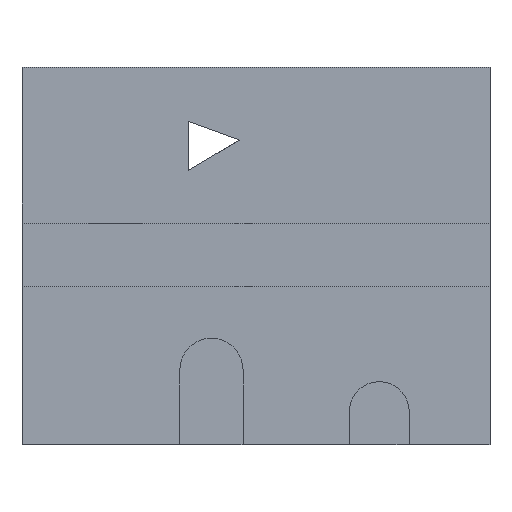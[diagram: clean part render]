
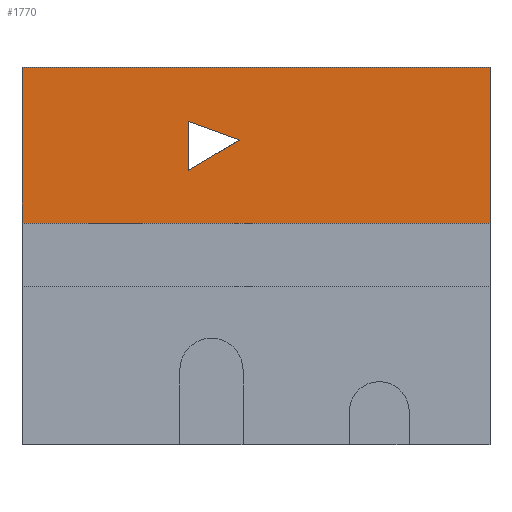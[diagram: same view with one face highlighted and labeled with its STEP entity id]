
A CAD part, front view. The second image highlights one B-rep face of the part: STEP entity #1770.
In plain terms, the highlighted planar face has unit normal (0, -1, 0).
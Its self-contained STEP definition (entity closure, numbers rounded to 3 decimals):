
#32 = PLANE('',#33);
#33 = AXIS2_PLACEMENT_3D('',#34,#35,#36);
#34 = CARTESIAN_POINT('',(0.,0.,0.));
#35 = DIRECTION('',(1.,0.,-0.));
#36 = DIRECTION('',(0.,0.,1.));
#113 = VERTEX_POINT('',#114);
#114 = CARTESIAN_POINT('',(0.,0.,11.959));
#128 = PLANE('',#129);
#129 = AXIS2_PLACEMENT_3D('',#130,#131,#132);
#130 = CARTESIAN_POINT('',(0.,0.,11.959));
#131 = DIRECTION('',(0.,0.,1.));
#132 = DIRECTION('',(1.,0.,-0.));
#140 = EDGE_CURVE('',#141,#113,#143,.T.);
#141 = VERTEX_POINT('',#142);
#142 = CARTESIAN_POINT('',(0.,0.,7.021));
#143 = SURFACE_CURVE('',#144,(#148,#155),.PCURVE_S1.);
#144 = LINE('',#145,#146);
#145 = CARTESIAN_POINT('',(0.,0.,0.));
#146 = VECTOR('',#147,1.);
#147 = DIRECTION('',(0.,0.,1.));
#148 = PCURVE('',#32,#149);
#149 = DEFINITIONAL_REPRESENTATION('',(#150),#154);
#150 = LINE('',#151,#152);
#151 = CARTESIAN_POINT('',(0.,0.));
#152 = VECTOR('',#153,1.);
#153 = DIRECTION('',(1.,0.));
#154 = ( GEOMETRIC_REPRESENTATION_CONTEXT(2) 
PARAMETRIC_REPRESENTATION_CONTEXT() REPRESENTATION_CONTEXT('2D SPACE',''
  ) );
#155 = PCURVE('',#156,#161);
#156 = PLANE('',#157);
#157 = AXIS2_PLACEMENT_3D('',#158,#159,#160);
#158 = CARTESIAN_POINT('',(0.,0.,0.));
#159 = DIRECTION('',(-0.,1.,0.));
#160 = DIRECTION('',(0.,0.,1.));
#161 = DEFINITIONAL_REPRESENTATION('',(#162),#166);
#162 = LINE('',#163,#164);
#163 = CARTESIAN_POINT('',(0.,0.));
#164 = VECTOR('',#165,1.);
#165 = DIRECTION('',(1.,0.));
#166 = ( GEOMETRIC_REPRESENTATION_CONTEXT(2) 
PARAMETRIC_REPRESENTATION_CONTEXT() REPRESENTATION_CONTEXT('2D SPACE',''
  ) );
#184 = PLANE('',#185);
#185 = AXIS2_PLACEMENT_3D('',#186,#187,#188);
#186 = CARTESIAN_POINT('',(14.823,8.082,7.021
    ));
#187 = DIRECTION('',(0.,0.,1.));
#188 = DIRECTION('',(0.,-1.,0.));
#357 = PLANE('',#358);
#358 = AXIS2_PLACEMENT_3D('',#359,#360,#361);
#359 = CARTESIAN_POINT('',(14.823,0.,0.));
#360 = DIRECTION('',(1.,0.,-0.));
#361 = DIRECTION('',(0.,0.,1.));
#1234 = PLANE('',#1235);
#1235 = AXIS2_PLACEMENT_3D('',#1236,#1237,#1238);
#1236 = CARTESIAN_POINT('',(5.268,11.937,
    10.242));
#1237 = DIRECTION('',(0.342,0.,0.94));
#1238 = DIRECTION('',(0.94,0.,-0.342));
#1260 = PLANE('',#1261);
#1261 = AXIS2_PLACEMENT_3D('',#1262,#1263,#1264);
#1262 = CARTESIAN_POINT('',(5.275,11.937,
    8.691));
#1263 = DIRECTION('',(-1.,0.,-0.004));
#1264 = DIRECTION('',(-0.004,0.,1.));
#1325 = EDGE_CURVE('',#113,#1326,#1328,.T.);
#1326 = VERTEX_POINT('',#1327);
#1327 = CARTESIAN_POINT('',(14.823,0.,11.959));
#1328 = SURFACE_CURVE('',#1329,(#1333,#1340),.PCURVE_S1.);
#1329 = LINE('',#1330,#1331);
#1330 = CARTESIAN_POINT('',(0.,0.,11.959));
#1331 = VECTOR('',#1332,1.);
#1332 = DIRECTION('',(1.,0.,-0.));
#1333 = PCURVE('',#128,#1334);
#1334 = DEFINITIONAL_REPRESENTATION('',(#1335),#1339);
#1335 = LINE('',#1336,#1337);
#1336 = CARTESIAN_POINT('',(0.,0.));
#1337 = VECTOR('',#1338,1.);
#1338 = DIRECTION('',(1.,0.));
#1339 = ( GEOMETRIC_REPRESENTATION_CONTEXT(2) 
PARAMETRIC_REPRESENTATION_CONTEXT() REPRESENTATION_CONTEXT('2D SPACE',''
  ) );
#1340 = PCURVE('',#156,#1341);
#1341 = DEFINITIONAL_REPRESENTATION('',(#1342),#1346);
#1342 = LINE('',#1343,#1344);
#1343 = CARTESIAN_POINT('',(11.959,0.));
#1344 = VECTOR('',#1345,1.);
#1345 = DIRECTION('',(0.,1.));
#1346 = ( GEOMETRIC_REPRESENTATION_CONTEXT(2) 
PARAMETRIC_REPRESENTATION_CONTEXT() REPRESENTATION_CONTEXT('2D SPACE',''
  ) );
#1657 = EDGE_CURVE('',#1658,#141,#1660,.T.);
#1658 = VERTEX_POINT('',#1659);
#1659 = CARTESIAN_POINT('',(14.823,0.,7.021));
#1660 = SURFACE_CURVE('',#1661,(#1665,#1672),.PCURVE_S1.);
#1661 = LINE('',#1662,#1663);
#1662 = CARTESIAN_POINT('',(14.823,0.,7.021));
#1663 = VECTOR('',#1664,1.);
#1664 = DIRECTION('',(-1.,-0.,0.));
#1665 = PCURVE('',#184,#1666);
#1666 = DEFINITIONAL_REPRESENTATION('',(#1667),#1671);
#1667 = LINE('',#1668,#1669);
#1668 = CARTESIAN_POINT('',(8.082,0.));
#1669 = VECTOR('',#1670,1.);
#1670 = DIRECTION('',(0.,-1.));
#1671 = ( GEOMETRIC_REPRESENTATION_CONTEXT(2) 
PARAMETRIC_REPRESENTATION_CONTEXT() REPRESENTATION_CONTEXT('2D SPACE',''
  ) );
#1672 = PCURVE('',#156,#1673);
#1673 = DEFINITIONAL_REPRESENTATION('',(#1674),#1678);
#1674 = LINE('',#1675,#1676);
#1675 = CARTESIAN_POINT('',(7.021,14.823));
#1676 = VECTOR('',#1677,1.);
#1677 = DIRECTION('',(0.,-1.));
#1678 = ( GEOMETRIC_REPRESENTATION_CONTEXT(2) 
PARAMETRIC_REPRESENTATION_CONTEXT() REPRESENTATION_CONTEXT('2D SPACE',''
  ) );
#1770 = ADVANCED_FACE('f008',(#1771,#1797),#156,.F.);
#1771 = FACE_BOUND('',#1772,.F.);
#1772 = EDGE_LOOP('',(#1773,#1794,#1795,#1796));
#1773 = ORIENTED_EDGE('',*,*,#1774,.F.);
#1774 = EDGE_CURVE('',#1658,#1326,#1775,.T.);
#1775 = SURFACE_CURVE('',#1776,(#1780,#1787),.PCURVE_S1.);
#1776 = LINE('',#1777,#1778);
#1777 = CARTESIAN_POINT('',(14.823,0.,0.));
#1778 = VECTOR('',#1779,1.);
#1779 = DIRECTION('',(0.,0.,1.));
#1780 = PCURVE('',#156,#1781);
#1781 = DEFINITIONAL_REPRESENTATION('',(#1782),#1786);
#1782 = LINE('',#1783,#1784);
#1783 = CARTESIAN_POINT('',(0.,14.823));
#1784 = VECTOR('',#1785,1.);
#1785 = DIRECTION('',(1.,0.));
#1786 = ( GEOMETRIC_REPRESENTATION_CONTEXT(2) 
PARAMETRIC_REPRESENTATION_CONTEXT() REPRESENTATION_CONTEXT('2D SPACE',''
  ) );
#1787 = PCURVE('',#357,#1788);
#1788 = DEFINITIONAL_REPRESENTATION('',(#1789),#1793);
#1789 = LINE('',#1790,#1791);
#1790 = CARTESIAN_POINT('',(0.,0.));
#1791 = VECTOR('',#1792,1.);
#1792 = DIRECTION('',(1.,0.));
#1793 = ( GEOMETRIC_REPRESENTATION_CONTEXT(2) 
PARAMETRIC_REPRESENTATION_CONTEXT() REPRESENTATION_CONTEXT('2D SPACE',''
  ) );
#1794 = ORIENTED_EDGE('',*,*,#1657,.T.);
#1795 = ORIENTED_EDGE('',*,*,#140,.T.);
#1796 = ORIENTED_EDGE('',*,*,#1325,.T.);
#1797 = FACE_BOUND('',#1798,.F.);
#1798 = EDGE_LOOP('',(#1799,#1827,#1848));
#1799 = ORIENTED_EDGE('',*,*,#1800,.F.);
#1800 = EDGE_CURVE('',#1801,#1803,#1805,.T.);
#1801 = VERTEX_POINT('',#1802);
#1802 = CARTESIAN_POINT('',(6.885,0.,9.653));
#1803 = VERTEX_POINT('',#1804);
#1804 = CARTESIAN_POINT('',(5.275,0.,8.691));
#1805 = SURFACE_CURVE('',#1806,(#1810,#1816),.PCURVE_S1.);
#1806 = LINE('',#1807,#1808);
#1807 = CARTESIAN_POINT('',(2.223,0.,6.868));
#1808 = VECTOR('',#1809,1.);
#1809 = DIRECTION('',(-0.858,0.,-0.513));
#1810 = PCURVE('',#156,#1811);
#1811 = DEFINITIONAL_REPRESENTATION('',(#1812),#1815);
#1812 = B_SPLINE_CURVE_WITH_KNOTS('',1,(#1813,#1814),.UNSPECIFIED.,.F.,
  .F.,(2,2),(-5.431,-3.555),.PIECEWISE_BEZIER_KNOTS.);
#1813 = CARTESIAN_POINT('',(9.653,6.885));
#1814 = CARTESIAN_POINT('',(8.691,5.275));
#1815 = ( GEOMETRIC_REPRESENTATION_CONTEXT(2) 
PARAMETRIC_REPRESENTATION_CONTEXT() REPRESENTATION_CONTEXT('2D SPACE',''
  ) );
#1816 = PCURVE('',#1817,#1822);
#1817 = PLANE('',#1818);
#1818 = AXIS2_PLACEMENT_3D('',#1819,#1820,#1821);
#1819 = CARTESIAN_POINT('',(6.885,11.937,
    9.653));
#1820 = DIRECTION('',(0.513,0.,-0.858));
#1821 = DIRECTION('',(-0.858,0.,-0.513));
#1822 = DEFINITIONAL_REPRESENTATION('',(#1823),#1826);
#1823 = B_SPLINE_CURVE_WITH_KNOTS('',1,(#1824,#1825),.UNSPECIFIED.,.F.,
  .F.,(2,2),(-5.431,-3.555),.PIECEWISE_BEZIER_KNOTS.);
#1824 = CARTESIAN_POINT('',(0.,-11.937));
#1825 = CARTESIAN_POINT('',(1.876,-11.937));
#1826 = ( GEOMETRIC_REPRESENTATION_CONTEXT(2) 
PARAMETRIC_REPRESENTATION_CONTEXT() REPRESENTATION_CONTEXT('2D SPACE',''
  ) );
#1827 = ORIENTED_EDGE('',*,*,#1828,.F.);
#1828 = EDGE_CURVE('',#1829,#1801,#1831,.T.);
#1829 = VERTEX_POINT('',#1830);
#1830 = CARTESIAN_POINT('',(5.268,0.,10.242));
#1831 = SURFACE_CURVE('',#1832,(#1836,#1842),.PCURVE_S1.);
#1832 = LINE('',#1833,#1834);
#1833 = CARTESIAN_POINT('',(4.588,0.,10.489));
#1834 = VECTOR('',#1835,1.);
#1835 = DIRECTION('',(0.94,0.,-0.342));
#1836 = PCURVE('',#156,#1837);
#1837 = DEFINITIONAL_REPRESENTATION('',(#1838),#1841);
#1838 = B_SPLINE_CURVE_WITH_KNOTS('',1,(#1839,#1840),.UNSPECIFIED.,.F.,
  .F.,(2,2),(0.723,2.445),.PIECEWISE_BEZIER_KNOTS.);
#1839 = CARTESIAN_POINT('',(10.242,5.268));
#1840 = CARTESIAN_POINT('',(9.653,6.885));
#1841 = ( GEOMETRIC_REPRESENTATION_CONTEXT(2) 
PARAMETRIC_REPRESENTATION_CONTEXT() REPRESENTATION_CONTEXT('2D SPACE',''
  ) );
#1842 = PCURVE('',#1234,#1843);
#1843 = DEFINITIONAL_REPRESENTATION('',(#1844),#1847);
#1844 = B_SPLINE_CURVE_WITH_KNOTS('',1,(#1845,#1846),.UNSPECIFIED.,.F.,
  .F.,(2,2),(0.723,2.445),.PIECEWISE_BEZIER_KNOTS.);
#1845 = CARTESIAN_POINT('',(0.,-11.937));
#1846 = CARTESIAN_POINT('',(1.721,-11.937));
#1847 = ( GEOMETRIC_REPRESENTATION_CONTEXT(2) 
PARAMETRIC_REPRESENTATION_CONTEXT() REPRESENTATION_CONTEXT('2D SPACE',''
  ) );
#1848 = ORIENTED_EDGE('',*,*,#1849,.F.);
#1849 = EDGE_CURVE('',#1803,#1829,#1850,.T.);
#1850 = SURFACE_CURVE('',#1851,(#1855,#1861),.PCURVE_S1.);
#1851 = LINE('',#1852,#1853);
#1852 = CARTESIAN_POINT('',(5.293,0.,4.357));
#1853 = VECTOR('',#1854,1.);
#1854 = DIRECTION('',(-0.004,-0.,1.));
#1855 = PCURVE('',#156,#1856);
#1856 = DEFINITIONAL_REPRESENTATION('',(#1857),#1860);
#1857 = B_SPLINE_CURVE_WITH_KNOTS('',1,(#1858,#1859),.UNSPECIFIED.,.F.,
  .F.,(2,2),(4.334,5.885),.PIECEWISE_BEZIER_KNOTS.);
#1858 = CARTESIAN_POINT('',(8.691,5.275));
#1859 = CARTESIAN_POINT('',(10.242,5.268));
#1860 = ( GEOMETRIC_REPRESENTATION_CONTEXT(2) 
PARAMETRIC_REPRESENTATION_CONTEXT() REPRESENTATION_CONTEXT('2D SPACE',''
  ) );
#1861 = PCURVE('',#1260,#1862);
#1862 = DEFINITIONAL_REPRESENTATION('',(#1863),#1866);
#1863 = B_SPLINE_CURVE_WITH_KNOTS('',1,(#1864,#1865),.UNSPECIFIED.,.F.,
  .F.,(2,2),(4.334,5.885),.PIECEWISE_BEZIER_KNOTS.);
#1864 = CARTESIAN_POINT('',(0.,-11.937));
#1865 = CARTESIAN_POINT('',(1.551,-11.937));
#1866 = ( GEOMETRIC_REPRESENTATION_CONTEXT(2) 
PARAMETRIC_REPRESENTATION_CONTEXT() REPRESENTATION_CONTEXT('2D SPACE',''
  ) );
